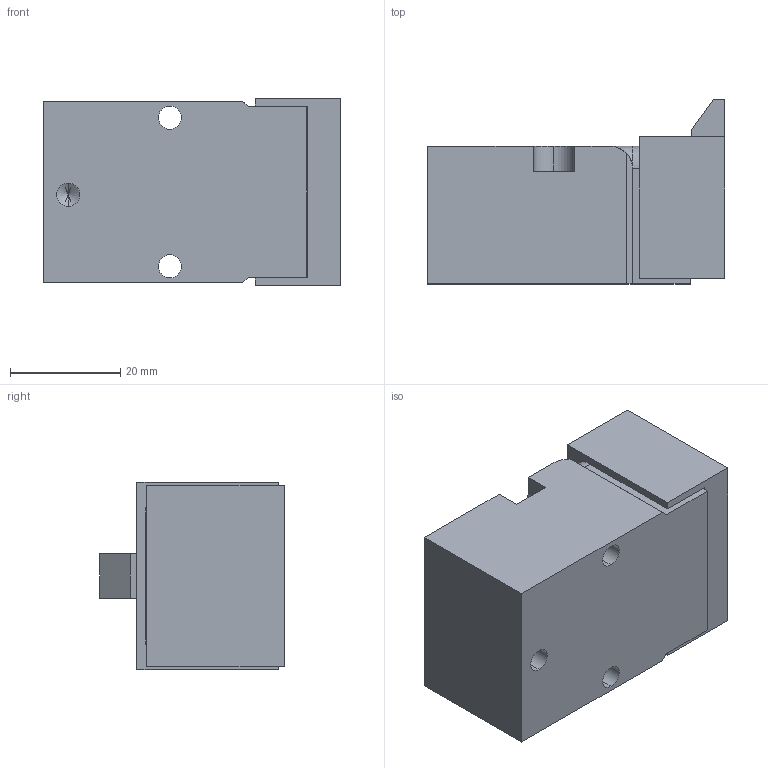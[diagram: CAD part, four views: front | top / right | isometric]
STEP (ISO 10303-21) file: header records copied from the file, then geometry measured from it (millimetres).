
FILE_DESCRIPTION (( 'STEP AP203' ), '1' );
FILE_NAME ('DESHB15-G.STEP', '2008-09-24T10:08:48', ( '' ), ( '' ), 'SwSTEP 2.0', 'SolidWorks 2007', '' );
FILE_SCHEMA (( 'CONFIG_CONTROL_DESIGN' ));
Length unit declared in the file: millimetre
Products named in the file (1): DESHB15-G
Bounding box: 54 x 33.5 x 34 mm (x, y, z)
Volume: 44264.8 mm3; surface area: 11436.9 mm2
Topology: 1 solids, 3 shells, 85 faces, 215 edges, 135 vertices
Faces by surface type: plane 47, cylinder 28, cone 8, torus 2
Entity records: 2574 total; most frequent: DIRECTION 441, CARTESIAN_POINT 434, ORIENTED_EDGE 414, EDGE_CURVE 207, AXIS2_PLACEMENT_3D 150, VECTOR 141, LINE 141, VERTEX_POINT 135
